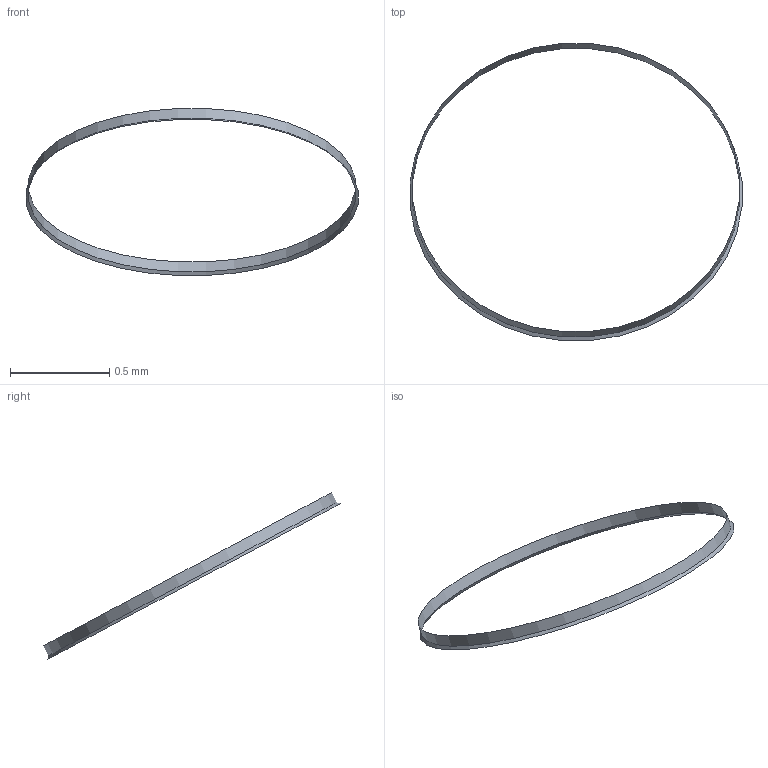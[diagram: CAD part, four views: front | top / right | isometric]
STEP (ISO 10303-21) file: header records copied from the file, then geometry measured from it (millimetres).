
FILE_DESCRIPTION(('BRL-CAD minimized periodic repair regression'),'2;1');
FILE_NAME('ap214_multiperiod_face_repair.stp','2026-07-24T00:00:00',('BRL-CAD'),('BRL-CAD'),'','','');
FILE_SCHEMA(('AUTOMOTIVE_DESIGN { 1 0 10303 214 3 1 1 1 }'));
Length unit declared in the file: millimetre
Products named in the file (1): multiperiod_face_repair
Bounding box: 1.67 x 1.5 x 0.84 mm (x, y, z)
Surface area: 0.4 mm2 (no closed solid volume)
Topology: 0 solids, 1 shells, 2 faces, 5 edges, 3 vertices
Faces by surface type: cone 1, cylinder 1
Full cylindrical faces by diameter (mm): 1.651 x1
Entity records: 72 total; most frequent: DIRECTION 12, CARTESIAN_POINT 10, ORIENTED_EDGE 8, EDGE_CURVE 5, AXIS2_PLACEMENT_3D 5, CIRCLE 3, VERTEX_POINT 3, FACE_OUTER_BOUND 2
